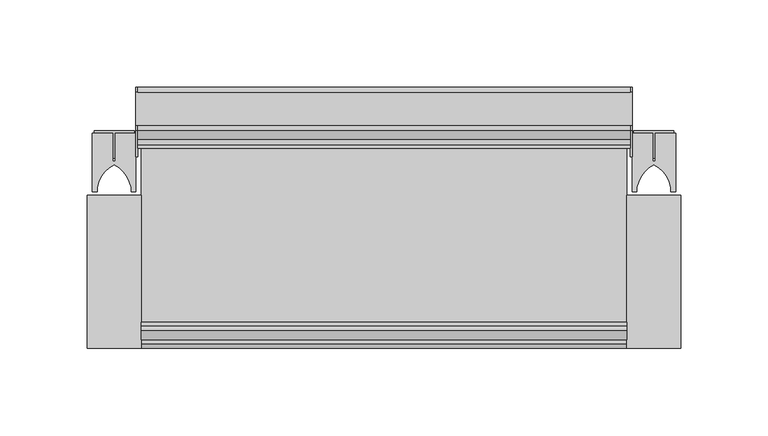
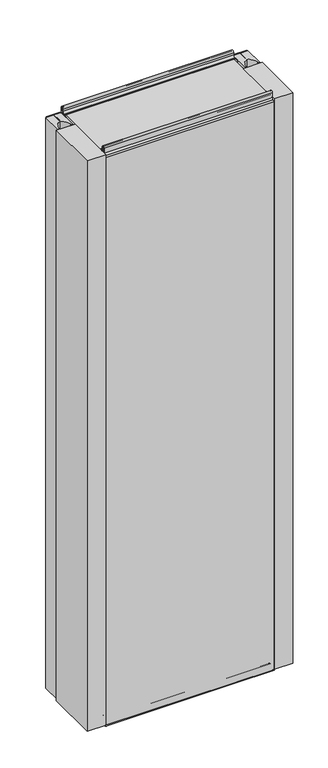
"""IFC4 building model written with IfcOpenShell, lengths in millimetres: plate geometry, Fronttop : Fronttop 150/1000."""

from ifc_helpers import new_model, si_unit, point, frame, frame_2d, origin, origin_with_axes, place, context, project, spatial, polyline, circle_curve, trimmed, segment, composite_curve, outline, extrude, source, transform, mapped, element, save
from ifc_brep_helpers import plane_surface, cylinder_surface, revolved_surface, advanced_brep


def plate_1067ccc3(model_context):
    return source(origin(), model_context, "Body", "SolidModel", [
        advanced_brep(
        [(-141.5, 124.0, 1008.0), (-141.5, 121.0, 1008.0), (-141.5, 121.0, 1004.0), (-141.5, 117.0, 1000.0), (-141.5, 115.0, 1000.0), (-141.5, 115.0, 1001.0), (-141.5, 117.0, 1001.0), (-141.5, 120.0, 1004.0), (-141.5, 120.0, 1008.0), (-141.5, 125.0, 1008.0), (-141.5, 125.0, 1000.0), (-141.5, 124.0, 1000.0), (141.5, 125.0, 1008.0), (141.5, 120.0, 1008.0), (141.5, 120.0, 1004.0), (141.5, 117.0, 1001.0), (141.5, 115.0, 1001.0), (141.5, 115.0, 1000.0), (141.5, 117.0, 1000.0), (141.5, 121.0, 1004.0), (141.5, 121.0, 1008.0), (141.5, 124.0, 1008.0), (141.5, 124.0, 1000.0), (141.5, 125.0, 1000.0), (-141.5, 117.0, 2.0), (141.5, 117.0, 2.0), (141.5, 115.0, 2.0), (-141.5, 115.0, 2.0), (-141.5, 119.0, 4.0), (141.5, 119.0, 4.0), (-141.5, 119.0, 8.0), (141.5, 119.0, 8.0), (-141.5, 126.0, 8.0), (141.5, 126.0, 8.0), (-141.5, 126.0, 0.0), (141.5, 126.0, 0.0), (-141.5, 129.0, -3.0), (141.5, 129.0, -3.0), (-141.5, 125.0, -3.0), (-142.5, 125.0, -3.0), (-142.5, 147.0, -3.0), (-141.5, 147.0, -3.0), (141.5, 147.0, -3.0), (142.5, 147.0, -3.0), (142.5, 125.0, -3.0), (141.5, 125.0, -3.0), (-141.5, 150.0, 0.0), (141.5, 150.0, 0.0), (-142.5, 150.0, 0.0), (-142.5, 150.0, 969.0), (-141.5, 150.0, 969.0), (141.5, 150.0, 969.0), (142.5, 150.0, 969.0), (142.5, 150.0, 0.0), (-141.5, 147.0, 972.0), (141.5, 147.0, 972.0), (-142.5, 147.0, 972.0), (-142.5, 128.0, 972.0), (-141.5, 128.0, 972.0), (141.5, 128.0, 972.0), (142.5, 128.0, 972.0), (142.5, 147.0, 972.0), (-141.5, 125.0, 975.0), (141.5, 125.0, 975.0), (-142.5, 125.0, 975.0), (-142.5, 125.0, 1000.0), (142.5, 125.0, 1000.0), (142.5, 125.0, 975.0), (-141.5, 124.0, 975.0), (141.5, 124.0, 975.0), (-141.5, 128.0, 971.0), (141.5, 128.0, 971.0), (-141.5, 147.0, 971.0), (141.5, 147.0, 971.0), (-141.5, 149.0, 969.0), (141.5, 149.0, 969.0), (-141.5, 149.0, 0.0), (141.5, 149.0, 0.0), (-141.5, 147.0, -2.0), (141.5, 147.0, -2.0), (-141.5, 129.0, -2.0), (141.5, 129.0, -2.0), (-141.5, 127.0, 0.0), (141.5, 127.0, 0.0), (-141.5, 127.0, 8.0), (141.5, 127.0, 8.0), (-141.5, 118.0, 8.0), (141.5, 118.0, 8.0), (-141.5, 118.0, 4.0), (141.5, 118.0, 4.0), (-141.5, 117.0, 3.0), (141.5, 117.0, 3.0), (-141.5, 115.0, 3.0), (141.5, 115.0, 3.0), (142.5, 110.0, 1000.0), (142.5, 110.0, 0.0), (142.5, 125.0, 0.0), (141.5, 125.0, 0.0), (141.5, 110.0, 0.0), (141.5, 110.0, 1000.0), (-142.5, 125.0, 0.0), (-142.5, 110.0, 0.0), (-142.5, 110.0, 1000.0), (-141.5, 110.0, 1000.0), (-141.5, 110.0, 0.0), (-141.5, 125.0, 0.0)],
        [
            (0, 1, circle_curve(frame((-141.5, 122.5, 1008.0), z_axis=(1.0, 0.0, 0.0), x_axis=(0.0, -1.0, 0.0)), 1.5)),
            (1, 2),
            (2, 3, circle_curve(frame((-141.5, 117.0, 1004.0), z_axis=(-1.0, 0.0, 0.0), x_axis=(0.0, -1.0, 0.0)), 4.0)),
            (3, 4),
            (4, 5),
            (5, 6),
            (6, 7, circle_curve(frame((-141.5, 117.0, 1004.0), z_axis=(1.0, 0.0, 0.0), x_axis=(0.0, -1.0, 0.0)), 3.0)),
            (7, 8),
            (8, 9, circle_curve(frame((-141.5, 122.5, 1008.0), z_axis=(-1.0, 0.0, 0.0), x_axis=(0.0, -1.0, 0.0)), 2.5)),
            (9, 10),
            (10, 11),
            (11, 0),
            (12, 13, circle_curve(frame((141.5, 122.5, 1008.0), z_axis=(1.0, 0.0, 0.0), x_axis=(0.0, -1.0, 0.0)), 2.5)),
            (13, 14),
            (14, 15, circle_curve(frame((141.5, 117.0, 1004.0), z_axis=(-1.0, 0.0, 0.0), x_axis=(0.0, -1.0, 0.0)), 3.0)),
            (15, 16),
            (16, 17),
            (17, 18),
            (18, 19, circle_curve(frame((141.5, 117.0, 1004.0), z_axis=(1.0, 0.0, 0.0), x_axis=(0.0, -1.0, 0.0)), 4.0)),
            (19, 20),
            (20, 21, circle_curve(frame((141.5, 122.5, 1008.0), z_axis=(-1.0, 0.0, 0.0), x_axis=(0.0, -1.0, 0.0)), 1.5)),
            (21, 22),
            (22, 23),
            (23, 12),
            (24, 25),
            (25, 26),
            (26, 27),
            (27, 24),
            (24, 28, circle_curve(frame((-141.5, 117.0, 4.0), z_axis=(1.0, 0.0, 0.0), x_axis=(0.0, -1.0, 0.0)), 2.0)),
            (28, 29),
            (29, 25, circle_curve(frame((141.5, 117.0, 4.0), z_axis=(-1.0, 0.0, 0.0), x_axis=(0.0, -1.0, 0.0)), 2.0)),
            (28, 30),
            (30, 31),
            (31, 29),
            (30, 32, circle_curve(frame((-141.5, 122.5, 8.0), z_axis=(-1.0, 0.0, 0.0), x_axis=(0.0, -1.0, 0.0)), 3.5)),
            (32, 33),
            (33, 31, circle_curve(frame((141.5, 122.5, 8.0), z_axis=(1.0, 0.0, 0.0), x_axis=(0.0, -1.0, 0.0)), 3.5)),
            (32, 34),
            (34, 35),
            (35, 33),
            (34, 36, circle_curve(frame((-141.5, 129.0, 0.0), z_axis=(1.0, 0.0, 0.0), x_axis=(0.0, -1.0, 0.0)), 3.0)),
            (36, 37),
            (37, 35, circle_curve(frame((141.5, 129.0, 0.0), z_axis=(-1.0, 0.0, 0.0), x_axis=(0.0, -1.0, 0.0)), 3.0)),
            (36, 38),
            (38, 39),
            (39, 40),
            (40, 41),
            (41, 42),
            (42, 43),
            (43, 44),
            (44, 45),
            (45, 37),
            (41, 46, circle_curve(frame((-141.5, 147.0, 0.0), z_axis=(1.0, 0.0, 0.0), x_axis=(0.0, -1.0, 0.0)), 3.0)),
            (46, 47),
            (47, 42, circle_curve(frame((141.5, 147.0, 0.0), z_axis=(-1.0, 0.0, 0.0), x_axis=(0.0, -1.0, 0.0)), 3.0)),
            (46, 48),
            (48, 49),
            (49, 50),
            (50, 51),
            (51, 52),
            (52, 53),
            (53, 47),
            (50, 54, circle_curve(frame((-141.5, 147.0, 969.0), z_axis=(1.0, 0.0, 0.0), x_axis=(0.0, -1.0, 0.0)), 3.0)),
            (54, 55),
            (55, 51, circle_curve(frame((141.5, 147.0, 969.0), z_axis=(-1.0, 0.0, 0.0), x_axis=(0.0, -1.0, 0.0)), 3.0)),
            (54, 56),
            (56, 57),
            (57, 58),
            (58, 59),
            (59, 60),
            (60, 61),
            (61, 55),
            (58, 62, circle_curve(frame((-141.5, 128.0, 975.0), z_axis=(-1.0, 0.0, 0.0), x_axis=(0.0, -1.0, 0.0)), 3.0)),
            (62, 63),
            (63, 59, circle_curve(frame((141.5, 128.0, 975.0), z_axis=(1.0, 0.0, 0.0), x_axis=(0.0, -1.0, 0.0)), 3.0)),
            (62, 64),
            (64, 65),
            (65, 10),
            (9, 12),
            (23, 66),
            (66, 67),
            (67, 63),
            (8, 13),
            (7, 14),
            (6, 15),
            (5, 16),
            (4, 17),
            (4, 3),
            (3, 18),
            (18, 17),
            (2, 19),
            (1, 20),
            (0, 21),
            (11, 68),
            (68, 69),
            (69, 22),
            (68, 70, circle_curve(frame((-141.5, 128.0, 975.0), z_axis=(1.0, 0.0, 0.0), x_axis=(0.0, -1.0, 0.0)), 4.0)),
            (70, 71),
            (71, 69, circle_curve(frame((141.5, 128.0, 975.0), z_axis=(-1.0, 0.0, 0.0), x_axis=(0.0, -1.0, 0.0)), 4.0)),
            (70, 72),
            (72, 73),
            (73, 71),
            (72, 74, circle_curve(frame((-141.5, 147.0, 969.0), z_axis=(-1.0, 0.0, 0.0), x_axis=(0.0, -1.0, 0.0)), 2.0)),
            (74, 75),
            (75, 73, circle_curve(frame((141.5, 147.0, 969.0), z_axis=(1.0, 0.0, 0.0), x_axis=(0.0, -1.0, 0.0)), 2.0)),
            (74, 76),
            (76, 77),
            (77, 75),
            (76, 78, circle_curve(frame((-141.5, 147.0, 0.0), z_axis=(-1.0, 0.0, 0.0), x_axis=(0.0, -1.0, 0.0)), 2.0)),
            (78, 79),
            (79, 77, circle_curve(frame((141.5, 147.0, 0.0), z_axis=(1.0, 0.0, 0.0), x_axis=(0.0, -1.0, 0.0)), 2.0)),
            (78, 80),
            (80, 81),
            (81, 79),
            (80, 82, circle_curve(frame((-141.5, 129.0, 0.0), z_axis=(-1.0, 0.0, 0.0), x_axis=(0.0, -1.0, 0.0)), 2.0)),
            (82, 83),
            (83, 81, circle_curve(frame((141.5, 129.0, 0.0), z_axis=(1.0, 0.0, 0.0), x_axis=(0.0, -1.0, 0.0)), 2.0)),
            (82, 84),
            (84, 85),
            (85, 83),
            (84, 86, circle_curve(frame((-141.5, 122.5, 8.0), z_axis=(1.0, 0.0, 0.0), x_axis=(0.0, -1.0, 0.0)), 4.5)),
            (86, 87),
            (87, 85, circle_curve(frame((141.5, 122.5, 8.0), z_axis=(-1.0, 0.0, 0.0), x_axis=(0.0, -1.0, 0.0)), 4.5)),
            (86, 88),
            (88, 89),
            (89, 87),
            (88, 90, circle_curve(frame((-141.5, 117.0, 4.0), z_axis=(-1.0, 0.0, 0.0), x_axis=(0.0, -1.0, 0.0)), 1.0)),
            (90, 91),
            (91, 89, circle_curve(frame((141.5, 117.0, 4.0), z_axis=(1.0, 0.0, 0.0), x_axis=(0.0, -1.0, 0.0)), 1.0)),
            (90, 92),
            (92, 93),
            (93, 91),
            (26, 93),
            (92, 27),
            (66, 94),
            (94, 95),
            (95, 96),
            (96, 44),
            (43, 53, circle_curve(frame((142.5, 147.0, 0.0), z_axis=(1.0, 0.0, 0.0), x_axis=(0.0, 1.0, 0.0)), 3.0)),
            (52, 61, circle_curve(frame((142.5, 147.0, 969.0), z_axis=(1.0, 0.0, 0.0), x_axis=(0.0, 1.0, 0.0)), 3.0)),
            (60, 67, circle_curve(frame((142.5, 128.0, 975.0), z_axis=(-1.0, 0.0, 0.0), x_axis=(0.0, 1.0, 0.0)), 3.0)),
            (45, 97),
            (97, 98),
            (98, 99),
            (99, 17),
            (18, 22),
            (99, 94),
            (98, 95),
            (97, 96),
            (64, 57, circle_curve(frame((-142.5, 128.0, 975.0), z_axis=(1.0, 0.0, 0.0), x_axis=(0.0, 1.0, 0.0)), 3.0)),
            (56, 49, circle_curve(frame((-142.5, 147.0, 969.0), z_axis=(-1.0, 0.0, 0.0), x_axis=(0.0, 1.0, 0.0)), 3.0)),
            (48, 40, circle_curve(frame((-142.5, 147.0, 0.0), z_axis=(-1.0, 0.0, 0.0), x_axis=(0.0, 1.0, 0.0)), 3.0)),
            (39, 100),
            (100, 101),
            (101, 102),
            (102, 65),
            (103, 104),
            (104, 105),
            (105, 38),
            (11, 3),
            (4, 103),
            (102, 103),
            (101, 104),
            (100, 105),
        ],
        [
            plane_surface(frame((-141.5, 0.0, 0.0), z_axis=(-1.0, 0.0, 0.0), x_axis=(0.0, 0.0, 1.0))),
            plane_surface(frame((141.5, 0.0, 0.0), z_axis=(1.0, 0.0, 0.0), x_axis=(0.0, 0.0, 1.0))),
            plane_surface(frame((-141.5, 117.0, 2.0), z_axis=(0.0, 0.0, -1.0), x_axis=(1.0, 0.0, 0.0))),
            cylinder_surface(frame((-141.5, 117.0, 4.0), z_axis=(-1.0, 0.0, 0.0), x_axis=(0.0, -1.0, 0.0)), 2.0),
            plane_surface(frame((-141.5, 119.0, 8.0), z_axis=(0.0, 1.0, 0.0), x_axis=(1.0, 0.0, 0.0))),
            revolved_surface(polyline([(141.5, 119.0, 8.0), (-141.5, 119.0, 8.0)]), (-141.5, 122.5, 8.0), (1.0, 0.0, 0.0)),
            plane_surface(frame((-141.5, 126.0, 0.0), z_axis=(0.0, -1.0, 0.0), x_axis=(1.0, 0.0, 0.0))),
            cylinder_surface(frame((-141.5, 129.0, 0.0), z_axis=(-1.0, 0.0, 0.0), x_axis=(0.0, -1.0, 0.0)), 3.0),
            plane_surface(frame((-141.5, 147.0, -3.0), z_axis=(0.0, 0.0, -1.0), x_axis=(1.0, 0.0, 0.0))),
            cylinder_surface(frame((-141.5, 147.0, 0.0), z_axis=(-1.0, 0.0, 0.0), x_axis=(0.0, -1.0, 0.0)), 3.0),
            plane_surface(frame((-141.5, 150.0, 969.0), z_axis=(0.0, 1.0, 0.0), x_axis=(1.0, 0.0, 0.0))),
            cylinder_surface(frame((-141.5, 147.0, 969.0), z_axis=(-1.0, 0.0, 0.0), x_axis=(0.0, -1.0, 0.0)), 3.0),
            plane_surface(frame((-141.5, 128.0, 972.0), z_axis=(0.0, 0.0, 1.0), x_axis=(1.0, 0.0, 0.0))),
            revolved_surface(polyline([(141.5, 125.0, 975.0), (-141.5, 125.0, 975.0)]), (-141.5, 128.0, 975.0), (1.0, 0.0, 0.0)),
            plane_surface(frame((-141.5, 125.0, 1008.0), z_axis=(0.0, 1.0, 0.0), x_axis=(1.0, 0.0, 0.0))),
            cylinder_surface(frame((-141.5, 122.5, 1008.0), z_axis=(-1.0, 0.0, 0.0), x_axis=(0.0, -1.0, 0.0)), 2.5),
            plane_surface(frame((-141.5, 120.0, 1004.0), z_axis=(0.0, -1.0, 0.0), x_axis=(1.0, 0.0, 0.0))),
            revolved_surface(polyline([(141.5, 114.0, 1004.0), (-141.5, 114.0, 1004.0)]), (-141.5, 117.0, 1004.0), (1.0, 0.0, 0.0)),
            plane_surface(frame((-141.5, 115.0, 1001.0), z_axis=(0.0, 0.0, 1.0), x_axis=(1.0, 0.0, 0.0))),
            plane_surface(frame((-141.5, 115.0, 1000.0), z_axis=(0.0, -1.0, 0.0), x_axis=(1.0, 0.0, 0.0))),
            plane_surface(frame((-141.5, 117.0, 1000.0), z_axis=(0.0, 0.0, -1.0), x_axis=(1.0, 0.0, 0.0))),
            cylinder_surface(frame((-141.5, 117.0, 1004.0), z_axis=(-1.0, 0.0, 0.0), x_axis=(0.0, -1.0, 0.0)), 4.0),
            plane_surface(frame((-141.5, 121.0, 1008.0), z_axis=(0.0, 1.0, 0.0), x_axis=(1.0, 0.0, 0.0))),
            revolved_surface(polyline([(141.5, 121.0, 1008.0), (-141.5, 121.0, 1008.0)]), (-141.5, 122.5, 1008.0), (1.0, 0.0, 0.0)),
            plane_surface(frame((-141.5, 124.0, 975.0), z_axis=(0.0, -1.0, 0.0), x_axis=(1.0, 0.0, 0.0))),
            cylinder_surface(frame((-141.5, 128.0, 975.0), z_axis=(-1.0, 0.0, 0.0), x_axis=(0.0, -1.0, 0.0)), 4.0),
            plane_surface(frame((-141.5, 147.0, 971.0), z_axis=(0.0, 0.0, -1.0), x_axis=(1.0, 0.0, 0.0))),
            revolved_surface(polyline([(141.5, 145.0, 969.0), (-141.5, 145.0, 969.0)]), (-141.5, 147.0, 969.0), (1.0, 0.0, 0.0)),
            plane_surface(frame((-141.5, 149.0, 0.0), z_axis=(0.0, -1.0, 0.0), x_axis=(1.0, 0.0, 0.0))),
            revolved_surface(polyline([(141.5, 145.0, 0.0), (-141.5, 145.0, 0.0)]), (-141.5, 147.0, 0.0), (1.0, 0.0, 0.0)),
            plane_surface(frame((-141.5, 129.0, -2.0), z_axis=(0.0, 0.0, 1.0), x_axis=(1.0, 0.0, 0.0))),
            revolved_surface(polyline([(141.5, 127.0, 0.0), (-141.5, 127.0, 0.0)]), (-141.5, 129.0, 0.0), (1.0, 0.0, 0.0)),
            plane_surface(frame((-141.5, 127.0, 8.0), z_axis=(0.0, 1.0, 0.0), x_axis=(1.0, 0.0, 0.0))),
            cylinder_surface(frame((-141.5, 122.5, 8.0), z_axis=(-1.0, 0.0, 0.0), x_axis=(0.0, -1.0, 0.0)), 4.5),
            plane_surface(frame((-141.5, 118.0, 4.0), z_axis=(0.0, -1.0, 0.0), x_axis=(1.0, 0.0, 0.0))),
            revolved_surface(polyline([(141.5, 116.0, 4.0), (-141.5, 116.0, 4.0)]), (-141.5, 117.0, 4.0), (1.0, 0.0, 0.0)),
            plane_surface(frame((-141.5, 115.0, 3.0), z_axis=(0.0, 0.0, 1.0), x_axis=(1.0, 0.0, 0.0))),
            plane_surface(frame((-141.5, 115.0, 2.0), z_axis=(0.0, -1.0, 0.0), x_axis=(1.0, 0.0, 0.0))),
            plane_surface(frame((142.5, 125.0, 1000.0), z_axis=(1.0, 0.0, 0.0), x_axis=(0.0, -1.0, 0.0))),
            plane_surface(frame((141.5, 125.0, 1000.0), z_axis=(-1.0, 0.0, 0.0), x_axis=(0.0, 1.0, 0.0))),
            plane_surface(frame((142.5, 125.0, 1000.0), z_axis=(0.0, 0.0, 1.0), x_axis=(-1.0, 0.0, 0.0))),
            plane_surface(frame((142.5, 110.0, 1000.0), z_axis=(0.0, -1.0, 0.0), x_axis=(-1.0, 0.0, 0.0))),
            plane_surface(frame((142.5, 110.0, 0.0), z_axis=(0.0, 0.0, -1.0), x_axis=(-1.0, 0.0, 0.0))),
            cylinder_surface(frame((141.5, 147.0, 0.0), z_axis=(1.0, 0.0, 0.0), x_axis=(0.0, 1.0, 0.0)), 3.0),
            cylinder_surface(frame((141.5, 147.0, 969.0), z_axis=(1.0, 0.0, 0.0), x_axis=(0.0, 1.0, 0.0)), 3.0),
            revolved_surface(polyline([(141.5, 131.0, 975.0), (142.5, 131.0, 975.0)]), (141.5, 128.0, 975.0), (-1.0, 0.0, 0.0)),
            plane_surface(frame((-142.5, 125.0, 1000.0), z_axis=(-1.0, 0.0, 0.0), x_axis=(0.0, 1.0, 0.0))),
            plane_surface(frame((-141.5, 125.0, 1000.0), z_axis=(1.0, 0.0, 0.0), x_axis=(0.0, -1.0, 0.0))),
            plane_surface(frame((-141.5, 125.0, 1000.0), z_axis=(0.0, 0.0, 1.0), x_axis=(-1.0, 0.0, 0.0))),
            plane_surface(frame((-141.5, 110.0, 1000.0), z_axis=(0.0, -1.0, 0.0), x_axis=(-1.0, 0.0, 0.0))),
            plane_surface(frame((-141.5, 110.0, 0.0), z_axis=(0.0, 0.0, -1.0), x_axis=(-1.0, 0.0, 0.0))),
            cylinder_surface(frame((-142.5, 147.0, 0.0), z_axis=(1.0, 0.0, 0.0), x_axis=(0.0, 1.0, 0.0)), 3.0),
            cylinder_surface(frame((-142.5, 147.0, 969.0), z_axis=(1.0, 0.0, 0.0), x_axis=(0.0, 1.0, 0.0)), 3.0),
            revolved_surface(polyline([(-142.5, 131.0, 975.0), (-141.5, 131.0, 975.0)]), (-142.5, 128.0, 975.0), (-1.0, 0.0, 0.0)),
            plane_surface(frame((142.5, 125.0, 0.0), z_axis=(0.0, -1.0, 0.0), x_axis=(-1.0, 0.0, 0.0))),
            plane_surface(frame((-141.5, 125.0, 0.0), z_axis=(0.0, -1.0, 0.0), x_axis=(-1.0, 0.0, 0.0))),
        ],
        [
            (0, [[1, 2, 3, 4, 5, 6, 7, 8, 9, 10, 11, 12]]),
            (1, [[13, 14, 15, 16, 17, 18, 19, 20, 21, 22, 23, 24]]),
            (2, [[25, 26, 27, 28]]),
            (3, [[-25, 29, 30, 31]]),
            (4, [[-30, 32, 33, 34]]),
            (5, [[-33, 35, 36, 37]]),
            (6, [[-36, 38, 39, 40]]),
            (7, [[-39, 41, 42, 43]]),
            (8, [[-42, 44, 45, 46, 47, 48, 49, 50, 51, 52]]),
            (9, [[-48, 53, 54, 55]]),
            (10, [[-54, 56, 57, 58, 59, 60, 61, 62]]),
            (11, [[-59, 63, 64, 65]]),
            (12, [[-64, 66, 67, 68, 69, 70, 71, 72]]),
            (13, [[-69, 73, 74, 75]]),
            (14, [[-74, 76, 77, 78, -10, 79, -24, 80, 81, 82]]),
            (15, [[-9, 83, -13, -79]]),
            (16, [[-8, 84, -14, -83]]),
            (17, [[-7, 85, -15, -84]]),
            (18, [[-6, 86, -16, -85]]),
            (19, [[-5, 87, -17, -86]]),
            (20, [[-87, 88, 89, 90]]),
            (21, [[-3, 91, -19, -89]]),
            (22, [[-2, 92, -20, -91]]),
            (23, [[-1, 93, -21, -92]]),
            (24, [[-93, -12, 94, 95, 96, -22]]),
            (25, [[-95, 97, 98, 99]]),
            (26, [[-98, 100, 101, 102]]),
            (27, [[-101, 103, 104, 105]]),
            (28, [[-104, 106, 107, 108]]),
            (29, [[-107, 109, 110, 111]]),
            (30, [[-110, 112, 113, 114]]),
            (31, [[-113, 115, 116, 117]]),
            (32, [[-116, 118, 119, 120]]),
            (33, [[-119, 121, 122, 123]]),
            (34, [[-122, 124, 125, 126]]),
            (35, [[-125, 127, 128, 129]]),
            (36, [[-128, 130, 131, 132]]),
            (37, [[-27, 133, -131, 134]]),
            (38, [[135, 136, 137, 138, -50, 139, -61, 140, -71, 141, -81]]),
            (39, [[142, 143, 144, 145, -90, 146, -96, -99, -102, -105, -108, -111, -114, -117, -120, -123, -126, -129, -132, -133, -26, -31, -34, -37, -40, -43, -52]]),
            (40, [[-135, -80, -23, -146, -18, -145, 147]]),
            (41, [[-136, -147, -144, 148]]),
            (42, [[-137, -148, -143, 149]]),
            (43, [[-139, -49, -55, -62]]),
            (44, [[-140, -60, -65, -72]]),
            (45, [[-141, -70, -75, -82]]),
            (46, [[-77, 150, -67, 151, -57, 152, -46, 153, 154, 155, 156]]),
            (47, [[157, 158, 159, -44, -41, -38, -35, -32, -29, -28, -134, -130, -127, -124, -121, -118, -115, -112, -109, -106, -103, -100, -97, -94, 160, -88, 161]]),
            (48, [[-156, 162, -161, -4, -160, -11, -78]]),
            (49, [[-155, 163, -157, -162]]),
            (50, [[-154, 164, -158, -163]]),
            (51, [[-152, -56, -53, -47]]),
            (52, [[-151, -66, -63, -58]]),
            (53, [[-150, -76, -73, -68]]),
            (54, [[-138, -149, -142, -51]]),
            (55, [[-153, -45, -159, -164]]),
        ],
    ),
        extrude(outline(composite_curve([segment(polyline([(-167.5001545, 123.5), (-155.75, 123.5), (-155.75, 107.5), (-154.25, 107.5), (-154.25, 123.5), (-142.4998455, 123.5), (-142.4998455, 90.0), (-145.25, 90.0), (-145.25, 92.5)]), True, "CONTINUOUS"), segment(trimmed(circle_curve(frame_2d((-163.0338021, 89.3183984)), 18.0661619), [point((-145.25, 92.5))], [point((-155.0, 105.5))], True, "CARTESIAN"), True, "CONTINUOUS"), segment(trimmed(circle_curve(frame_2d((-146.9661979, 89.3183984)), 18.0661619), [point((-155.0, 105.5))], [point((-164.75, 92.5))], True, "CARTESIAN"), True, "CONTINUOUS"), segment(polyline([(-164.75, 92.5), (-164.75, 90.0), (-167.5001545, 90.0), (-167.5001545, 123.5)]), True, "CONTINUOUS")], self_intersect=False)), origin_with_axes(), (0.0, 0.0, 1.0), 1000.0),
        extrude(outline(polyline([(-139.5, 0.0), (-170.5, 0.0), (-170.5, 88.0), (-139.5, 88.0), (-139.5, 0.0)])), origin_with_axes(), (0.0, 0.0, 1.0), 1000.0),
        extrude(outline(polyline([(-166.5051154, 125.0), (-143.4948846, 125.0), (-143.4948846, 123.5), (-154.3497504, 123.5), (-154.3497504, 109.0759655), (-155.65, 109.0759655), (-155.65, 123.5), (-166.5051154, 123.5), (-166.5051154, 125.0)])), origin_with_axes(), (0.0, 0.0, 1.0), 1000.0),
        extrude(outline(composite_curve([segment(polyline([(142.4998455, 123.5), (154.25, 123.5), (154.25, 107.5), (155.75, 107.5), (155.75, 123.5), (167.5001545, 123.5), (167.5001545, 90.0), (164.75, 90.0), (164.75, 92.5)]), True, "CONTINUOUS"), segment(trimmed(circle_curve(frame_2d((146.9661979, 89.3183984)), 18.0661619), [point((164.75, 92.5))], [point((155.0, 105.5))], True, "CARTESIAN"), True, "CONTINUOUS"), segment(trimmed(circle_curve(frame_2d((163.0338021, 89.3183984)), 18.0661619), [point((155.0, 105.5))], [point((145.25, 92.5))], True, "CARTESIAN"), True, "CONTINUOUS"), segment(polyline([(145.25, 92.5), (145.25, 90.0), (142.4998455, 90.0), (142.4998455, 123.5)]), True, "CONTINUOUS")], self_intersect=False)), origin_with_axes(), (0.0, 0.0, 1.0), 1000.0),
        extrude(outline(polyline([(170.5, 0.0), (139.5, 0.0), (139.5, 88.0), (170.5, 88.0), (170.5, 0.0)])), origin_with_axes(), (0.0, 0.0, 1.0), 1000.0),
        extrude(outline(polyline([(143.4948846, 125.0), (166.5051154, 125.0), (166.5051154, 123.5), (155.6502496, 123.5), (155.6502496, 109.0759655), (154.35, 109.0759655), (154.35, 123.5), (143.4948846, 123.5), (143.4948846, 125.0)])), origin_with_axes(), (0.0, 0.0, 1.0), 1000.0),
        advanced_brep(
        [(-139.5, 13.0, 1001.0), (-139.5, 15.0, 1001.0), (-139.5, 15.0, 1000.0), (-139.5, 13.0, 1000.0), (-139.5, 9.0, 1004.0), (-139.5, 9.0, 1008.0), (-139.5, 6.0, 1008.0), (-139.5, 6.0, 999.5), (-139.5, 2.1134897, 996.0214069), (-139.5, 1.0, 995.0), (-139.5, 1.0, -0.5), (-139.5, 3.0, -0.5), (-139.5, 3.0, 8.0), (-139.5, 12.0, 8.0), (-139.5, 12.0, 4.0), (-139.5, 13.0, 3.0), (-139.5, 15.0, 3.0), (-139.5, 15.0, 2.0), (-139.5, 13.0, 2.0), (-139.5, 11.0, 4.0), (-139.5, 11.0, 8.0), (-139.5, 4.0, 8.0), (-139.5, 4.0, -0.5), (-139.5, 0.0, -0.5), (-139.5, 0.0, 995.0), (-139.5, 2.220863, 996.9877675), (-139.5, 5.0, 999.5), (-139.5, 5.0, 1008.0), (-139.5, 10.0, 1008.0), (-139.5, 10.0, 1004.0), (139.5, 13.0, 1001.0), (139.5, 10.0, 1004.0), (139.5, 10.0, 1008.0), (139.5, 5.0, 1008.0), (139.5, 5.0, 999.5), (139.5, 2.2239212, 997.0152907), (139.5, 0.0, 995.0), (139.5, 0.0, -0.5), (139.5, 4.0, -0.5), (139.5, 4.0, 8.0), (139.5, 11.0, 8.0), (139.5, 11.0, 4.0), (139.5, 13.0, 2.0), (139.5, 15.0, 2.0), (139.5, 15.0, 3.0), (139.5, 13.0, 3.0), (139.5, 12.0, 4.0), (139.5, 12.0, 8.0), (139.5, 3.0, 8.0), (139.5, 3.0, -0.5), (139.5, 1.0, -0.5), (139.5, 1.0, 995.0), (139.5, 2.1104315, 995.9938837), (139.5, 6.0, 999.5), (139.5, 6.0, 1008.0), (139.5, 9.0, 1008.0), (139.5, 9.0, 1004.0), (139.5, 13.0, 1000.0), (139.5, 15.0, 1000.0), (139.5, 15.0, 1001.0)],
        [
            (0, 1),
            (1, 2),
            (2, 3),
            (3, 4, circle_curve(frame((-139.5, 13.0, 1004.0), z_axis=(-1.0, 0.0, 0.0), x_axis=(0.0, -1.0, 0.0)), 4.0)),
            (4, 5),
            (5, 6, circle_curve(frame((-139.5, 7.5, 1008.0), z_axis=(1.0, 0.0, 0.0), x_axis=(0.0, -1.0, 0.0)), 1.5)),
            (6, 7),
            (7, 8, circle_curve(frame((-139.5, 2.5, 999.5), z_axis=(-1.0, 0.0, 0.0), x_axis=(0.0, -1.0, 0.0)), 3.5)),
            (8, 9, circle_curve(frame((-139.5, 2.0, 995.0), z_axis=(1.0, 0.0, 0.0), x_axis=(0.0, -1.0, 0.0)), 1.0)),
            (9, 10),
            (10, 11, circle_curve(frame((-139.5, 2.0, -0.5), z_axis=(1.0, 0.0, 0.0), x_axis=(0.0, -1.0, 0.0)), 1.0)),
            (11, 12),
            (12, 13, circle_curve(frame((-139.5, 7.5, 8.0), z_axis=(-1.0, 0.0, 0.0), x_axis=(0.0, -1.0, 0.0)), 4.5)),
            (13, 14),
            (14, 15, circle_curve(frame((-139.5, 13.0, 4.0), z_axis=(1.0, 0.0, 0.0), x_axis=(0.0, -1.0, 0.0)), 1.0)),
            (15, 16),
            (16, 17),
            (17, 18),
            (18, 19, circle_curve(frame((-139.5, 13.0, 4.0), z_axis=(-1.0, 0.0, 0.0), x_axis=(0.0, -1.0, 0.0)), 2.0)),
            (19, 20),
            (20, 21, circle_curve(frame((-139.5, 7.5, 8.0), z_axis=(1.0, 0.0, 0.0), x_axis=(0.0, -1.0, 0.0)), 3.5)),
            (21, 22),
            (22, 23, circle_curve(frame((-139.5, 2.0, -0.5), z_axis=(-1.0, 0.0, 0.0), x_axis=(0.0, -1.0, 0.0)), 2.0)),
            (23, 24),
            (24, 25, circle_curve(frame((-139.5, 2.0, 995.0), z_axis=(-1.0, 0.0, 0.0), x_axis=(0.0, -1.0, 0.0)), 2.0)),
            (25, 26, circle_curve(frame((-139.5, 2.5, 999.5), z_axis=(1.0, 0.0, 0.0), x_axis=(0.0, -1.0, 0.0)), 2.5)),
            (26, 27),
            (27, 28, circle_curve(frame((-139.5, 7.5, 1008.0), z_axis=(-1.0, 0.0, 0.0), x_axis=(0.0, -1.0, 0.0)), 2.5)),
            (28, 29),
            (29, 0, circle_curve(frame((-139.5, 13.0, 1004.0), z_axis=(1.0, 0.0, 0.0), x_axis=(0.0, -1.0, 0.0)), 3.0)),
            (30, 31, circle_curve(frame((139.5, 13.0, 1004.0), z_axis=(-1.0, 0.0, 0.0), x_axis=(0.0, -1.0, 0.0)), 3.0)),
            (31, 32),
            (32, 33, circle_curve(frame((139.5, 7.5, 1008.0), z_axis=(1.0, 0.0, 0.0), x_axis=(0.0, -1.0, 0.0)), 2.5)),
            (33, 34),
            (34, 35, circle_curve(frame((139.5, 2.5, 999.5), z_axis=(-1.0, 0.0, 0.0), x_axis=(0.0, -1.0, 0.0)), 2.5)),
            (35, 36, circle_curve(frame((139.5, 2.0, 995.0), z_axis=(1.0, 0.0, 0.0), x_axis=(0.0, -1.0, 0.0)), 2.0)),
            (36, 37),
            (37, 38, circle_curve(frame((139.5, 2.0, -0.5), z_axis=(1.0, 0.0, 0.0), x_axis=(0.0, -1.0, 0.0)), 2.0)),
            (38, 39),
            (39, 40, circle_curve(frame((139.5, 7.5, 8.0), z_axis=(-1.0, 0.0, 0.0), x_axis=(0.0, -1.0, 0.0)), 3.5)),
            (40, 41),
            (41, 42, circle_curve(frame((139.5, 13.0, 4.0), z_axis=(1.0, 0.0, 0.0), x_axis=(0.0, -1.0, 0.0)), 2.0)),
            (42, 43),
            (43, 44),
            (44, 45),
            (45, 46, circle_curve(frame((139.5, 13.0, 4.0), z_axis=(-1.0, 0.0, 0.0), x_axis=(0.0, -1.0, 0.0)), 1.0)),
            (46, 47),
            (47, 48, circle_curve(frame((139.5, 7.5, 8.0), z_axis=(1.0, 0.0, 0.0), x_axis=(0.0, -1.0, 0.0)), 4.5)),
            (48, 49),
            (49, 50, circle_curve(frame((139.5, 2.0, -0.5), z_axis=(-1.0, 0.0, 0.0), x_axis=(0.0, -1.0, 0.0)), 1.0)),
            (50, 51),
            (51, 52, circle_curve(frame((139.5, 2.0, 995.0), z_axis=(-1.0, 0.0, 0.0), x_axis=(0.0, -1.0, 0.0)), 1.0)),
            (52, 53, circle_curve(frame((139.5, 2.5, 999.5), z_axis=(1.0, 0.0, 0.0), x_axis=(0.0, -1.0, 0.0)), 3.5)),
            (53, 54),
            (54, 55, circle_curve(frame((139.5, 7.5, 1008.0), z_axis=(-1.0, 0.0, 0.0), x_axis=(0.0, -1.0, 0.0)), 1.5)),
            (55, 56),
            (56, 57, circle_curve(frame((139.5, 13.0, 1004.0), z_axis=(1.0, 0.0, 0.0), x_axis=(0.0, -1.0, 0.0)), 4.0)),
            (57, 58),
            (58, 59),
            (59, 30),
            (0, 30),
            (59, 1),
            (58, 2),
            (57, 3),
            (56, 4),
            (55, 5),
            (54, 6),
            (53, 7),
            (52, 8),
            (51, 9),
            (50, 10),
            (49, 11),
            (48, 12),
            (47, 13),
            (46, 14),
            (45, 15),
            (44, 16),
            (43, 17),
            (42, 18),
            (41, 19),
            (40, 20),
            (39, 21),
            (38, 22),
            (37, 23),
            (36, 24),
            (35, 25),
            (34, 26),
            (33, 27),
            (32, 28),
            (31, 29),
        ],
        [
            plane_surface(frame((-139.5, 0.0, 0.0), z_axis=(-1.0, 0.0, 0.0), x_axis=(0.0, 0.0, 1.0))),
            plane_surface(frame((139.5, 0.0, 0.0), z_axis=(1.0, 0.0, 0.0), x_axis=(0.0, 0.0, 1.0))),
            plane_surface(frame((-139.5, 13.0, 1001.0), z_axis=(0.0, 0.0, 1.0), x_axis=(1.0, 0.0, 0.0))),
            plane_surface(frame((-139.5, 15.0, 1001.0), z_axis=(0.0, 1.0, 0.0), x_axis=(1.0, 0.0, 0.0))),
            plane_surface(frame((-139.5, 15.0, 1000.0), z_axis=(0.0, 0.0, -1.0), x_axis=(1.0, 0.0, 0.0))),
            cylinder_surface(frame((-139.5, 13.0, 1004.0), z_axis=(-1.0, 0.0, 0.0), x_axis=(0.0, -1.0, 0.0)), 4.0),
            plane_surface(frame((-139.5, 9.0, 1004.0), z_axis=(0.0, -1.0, 0.0), x_axis=(1.0, 0.0, 0.0))),
            revolved_surface(polyline([(139.5, 6.0, 1008.0), (-139.5, 6.0, 1008.0)]), (-139.5, 7.5, 1008.0), (1.0, 0.0, 0.0)),
            plane_surface(frame((-139.5, 6.0, 1008.0), z_axis=(0.0, 1.0, 0.0), x_axis=(1.0, 0.0, 0.0))),
            cylinder_surface(frame((-139.5, 2.5, 999.5), z_axis=(-1.0, 0.0, 0.0), x_axis=(0.0, -1.0, 0.0)), 3.5),
            revolved_surface(polyline([(139.5, 1.0, 995.0), (-139.5, 1.0, 995.0)]), (-139.5, 2.0, 995.0), (1.0, 0.0, 0.0)),
            plane_surface(frame((-139.5, 1.0, 995.0), z_axis=(0.0, 1.0, 0.0), x_axis=(1.0, 0.0, 0.0))),
            revolved_surface(polyline([(139.5, 1.0, -0.5), (-139.5, 1.0, -0.5)]), (-139.5, 2.0, -0.5), (1.0, 0.0, 0.0)),
            plane_surface(frame((-139.5, 3.0, -0.5), z_axis=(0.0, -1.0, 0.0), x_axis=(1.0, 0.0, 0.0))),
            cylinder_surface(frame((-139.5, 7.5, 8.0), z_axis=(-1.0, 0.0, 0.0), x_axis=(0.0, -1.0, 0.0)), 4.5),
            plane_surface(frame((-139.5, 12.0, 8.0), z_axis=(0.0, 1.0, 0.0), x_axis=(1.0, 0.0, 0.0))),
            revolved_surface(polyline([(139.5, 12.0, 4.0), (-139.5, 12.0, 4.0)]), (-139.5, 13.0, 4.0), (1.0, 0.0, 0.0)),
            plane_surface(frame((-139.5, 13.0, 3.0), z_axis=(0.0, 0.0, 1.0), x_axis=(1.0, 0.0, 0.0))),
            plane_surface(frame((-139.5, 15.0, 3.0), z_axis=(0.0, 1.0, 0.0), x_axis=(1.0, 0.0, 0.0))),
            plane_surface(frame((-139.5, 15.0, 2.0), z_axis=(0.0, 0.0, -1.0), x_axis=(1.0, 0.0, 0.0))),
            cylinder_surface(frame((-139.5, 13.0, 4.0), z_axis=(-1.0, 0.0, 0.0), x_axis=(0.0, -1.0, 0.0)), 2.0),
            plane_surface(frame((-139.5, 11.0, 4.0), z_axis=(0.0, -1.0, 0.0), x_axis=(1.0, 0.0, 0.0))),
            revolved_surface(polyline([(139.5, 4.0, 8.0), (-139.5, 4.0, 8.0)]), (-139.5, 7.5, 8.0), (1.0, 0.0, 0.0)),
            plane_surface(frame((-139.5, 4.0, 8.0), z_axis=(0.0, 1.0, 0.0), x_axis=(1.0, 0.0, 0.0))),
            cylinder_surface(frame((-139.5, 2.0, -0.5), z_axis=(-1.0, 0.0, 0.0), x_axis=(0.0, -1.0, 0.0)), 2.0),
            plane_surface(frame((-139.5, 0.0, -0.5), z_axis=(0.0, -1.0, 0.0), x_axis=(1.0, 0.0, 0.0))),
            cylinder_surface(frame((-139.5, 2.0, 995.0), z_axis=(-1.0, 0.0, 0.0), x_axis=(0.0, -1.0, 0.0)), 2.0),
            revolved_surface(polyline([(139.5, 0.0, 999.5), (-139.5, 0.0, 999.5)]), (-139.5, 2.5, 999.5), (1.0, 0.0, 0.0)),
            plane_surface(frame((-139.5, 5.0, 999.5), z_axis=(0.0, -1.0, 0.0), x_axis=(1.0, 0.0, 0.0))),
            cylinder_surface(frame((-139.5, 7.5, 1008.0), z_axis=(-1.0, 0.0, 0.0), x_axis=(0.0, -1.0, 0.0)), 2.5),
            plane_surface(frame((-139.5, 10.0, 1008.0), z_axis=(0.0, 1.0, 0.0), x_axis=(1.0, 0.0, 0.0))),
            revolved_surface(polyline([(139.5, 10.0, 1004.0), (-139.5, 10.0, 1004.0)]), (-139.5, 13.0, 1004.0), (1.0, 0.0, 0.0)),
        ],
        [
            (0, [[1, 2, 3, 4, 5, 6, 7, 8, 9, 10, 11, 12, 13, 14, 15, 16, 17, 18, 19, 20, 21, 22, 23, 24, 25, 26, 27, 28, 29, 30]]),
            (1, [[31, 32, 33, 34, 35, 36, 37, 38, 39, 40, 41, 42, 43, 44, 45, 46, 47, 48, 49, 50, 51, 52, 53, 54, 55, 56, 57, 58, 59, 60]]),
            (2, [[-1, 61, -60, 62]]),
            (3, [[-2, -62, -59, 63]]),
            (4, [[-3, -63, -58, 64]]),
            (5, [[-4, -64, -57, 65]]),
            (6, [[-5, -65, -56, 66]]),
            (7, [[-6, -66, -55, 67]]),
            (8, [[-7, -67, -54, 68]]),
            (9, [[-8, -68, -53, 69]]),
            (10, [[-9, -69, -52, 70]]),
            (11, [[-10, -70, -51, 71]]),
            (12, [[-11, -71, -50, 72]]),
            (13, [[-12, -72, -49, 73]]),
            (14, [[-13, -73, -48, 74]]),
            (15, [[-14, -74, -47, 75]]),
            (16, [[-15, -75, -46, 76]]),
            (17, [[-16, -76, -45, 77]]),
            (18, [[-17, -77, -44, 78]]),
            (19, [[-18, -78, -43, 79]]),
            (20, [[-19, -79, -42, 80]]),
            (21, [[-20, -80, -41, 81]]),
            (22, [[-21, -81, -40, 82]]),
            (23, [[-22, -82, -39, 83]]),
            (24, [[-23, -83, -38, 84]]),
            (25, [[-24, -84, -37, 85]]),
            (26, [[-25, -85, -36, 86]]),
            (27, [[-26, -86, -35, 87]]),
            (28, [[-27, -87, -34, 88]]),
            (29, [[-28, -88, -33, 89]]),
            (30, [[-29, -89, -32, 90]]),
            (31, [[-30, -90, -31, -61]]),
        ],
    ),
        extrude(outline(composite_curve([segment(polyline([(15.0, 3.0), (13.0, 3.0)]), True, "CONTINUOUS"), segment(trimmed(circle_curve(frame_2d((13.0, 4.0)), 1.0), [point((13.0, 3.0))], [point((12.0, 4.0))], False, "CARTESIAN"), True, "CONTINUOUS"), segment(polyline([(12.0, 4.0), (12.0, 8.0)]), True, "CONTINUOUS"), segment(trimmed(circle_curve(frame_2d((7.5, 8.0)), 4.5), [point((12.0, 8.0))], [point((3.0, 8.0))], True, "CARTESIAN"), True, "CONTINUOUS"), segment(polyline([(3.0, 8.0), (3.0, -0.5)]), True, "CONTINUOUS"), segment(trimmed(circle_curve(frame_2d((2.0, -0.5)), 1.0), [point((3.0, -0.5))], [point((1.0, -0.5))], False, "CARTESIAN"), True, "CONTINUOUS"), segment(polyline([(1.0, -0.5), (1.0, 995.0278643)]), True, "CONTINUOUS"), segment(trimmed(circle_curve(frame_2d((2.0, 995.0278643)), 1.0), [point((1.0, 995.0278643))], [point((2.1111111, 996.0216723))], False, "CARTESIAN"), True, "CONTINUOUS"), segment(trimmed(circle_curve(frame_2d((2.5, 999.5)), 3.5), [point((2.1111111, 996.0216723))], [point((6.0, 999.5))], True, "CARTESIAN"), True, "CONTINUOUS"), segment(polyline([(6.0, 999.5), (6.0, 1008.0)]), True, "CONTINUOUS"), segment(trimmed(circle_curve(frame_2d((7.5, 1008.0)), 1.5), [point((6.0, 1008.0))], [point((9.0, 1008.0))], False, "CARTESIAN"), True, "CONTINUOUS"), segment(polyline([(9.0, 1008.0), (9.0, 1004.0)]), True, "CONTINUOUS"), segment(trimmed(circle_curve(frame_2d((13.0, 1004.0)), 4.0), [point((9.0, 1004.0))], [point((13.0, 1000.0))], True, "CARTESIAN"), True, "CONTINUOUS"), segment(polyline([(13.0, 1000.0), (117.0, 1000.0)]), True, "CONTINUOUS"), segment(trimmed(circle_curve(frame_2d((117.0, 1004.0)), 4.0), [point((117.0, 1000.0))], [point((121.0, 1004.0))], True, "CARTESIAN"), True, "CONTINUOUS"), segment(polyline([(121.0, 1004.0), (121.0, 1008.0)]), True, "CONTINUOUS"), segment(trimmed(circle_curve(frame_2d((122.5, 1008.0)), 1.5), [point((121.0, 1008.0))], [point((124.0, 1008.0))], False, "CARTESIAN"), True, "CONTINUOUS"), segment(polyline([(124.0, 1008.0), (124.0, 975.0)]), True, "CONTINUOUS"), segment(trimmed(circle_curve(frame_2d((128.0, 975.0)), 4.0), [point((124.0, 975.0))], [point((128.0, 971.0))], True, "CARTESIAN"), True, "CONTINUOUS"), segment(polyline([(128.0, 971.0), (147.0, 971.0)]), True, "CONTINUOUS"), segment(trimmed(circle_curve(frame_2d((147.0, 969.0)), 2.0), [point((147.0, 971.0))], [point((149.0, 969.0))], False, "CARTESIAN"), True, "CONTINUOUS"), segment(polyline([(149.0, 969.0), (149.0, 0.0)]), True, "CONTINUOUS"), segment(trimmed(circle_curve(frame_2d((147.0, 0.0)), 2.0), [point((149.0, 0.0))], [point((147.0, -2.0))], False, "CARTESIAN"), True, "CONTINUOUS"), segment(polyline([(147.0, -2.0), (129.0, -2.0)]), True, "CONTINUOUS"), segment(trimmed(circle_curve(frame_2d((129.0, 0.0)), 2.0), [point((129.0, -2.0))], [point((127.0, 0.0))], False, "CARTESIAN"), True, "CONTINUOUS"), segment(polyline([(127.0, 0.0), (127.0, 8.0)]), True, "CONTINUOUS"), segment(trimmed(circle_curve(frame_2d((122.5, 8.0)), 4.5), [point((127.0, 8.0))], [point((118.0, 8.0))], True, "CARTESIAN"), True, "CONTINUOUS"), segment(polyline([(118.0, 8.0), (118.0, 4.0)]), True, "CONTINUOUS"), segment(trimmed(circle_curve(frame_2d((117.0, 4.0)), 1.0), [point((118.0, 4.0))], [point((117.0, 3.0))], False, "CARTESIAN"), True, "CONTINUOUS"), segment(polyline([(117.0, 3.0), (115.0, 3.0), (115.0, 0.0), (15.0, 0.0), (15.0, 3.0)]), True, "CONTINUOUS")], self_intersect=False)), frame((-139.5, 0.0, 0.0), z_axis=(1.0, 0.0, 0.0), x_axis=(0.0, 1.0, 0.0)), (0.0, 0.0, 1.0), 279.0),
    ])


if __name__ == "__main__":
    model = new_model("IFC4")
    model_context = context("Model", 3, world=origin())
    ifc_project = project(units=[si_unit("LENGTHUNIT", "METRE", prefix="MILLI")], contexts=[model_context])
    site = spatial("IfcSite", under=ifc_project)
    building = spatial("IfcBuilding", under=site)
    placement = place(None, origin())
    plate_shape = plate_1067ccc3(model_context)
    element("IfcPlate", 1, ObjectType="Fronttop : Fronttop 150/1000", at=placement, inside=building, context=model_context, shape_type="MappedRepresentation", body=[
        mapped(plate_shape, transform((0.0, 0.0, 0.0), x_axis=(1.0, 0.0, 0.0), y_axis=(0.0, 1.0, 0.0), z_axis=(0.0, 0.0, 1.0))),
    ])
    save(model, "model.ifc")
